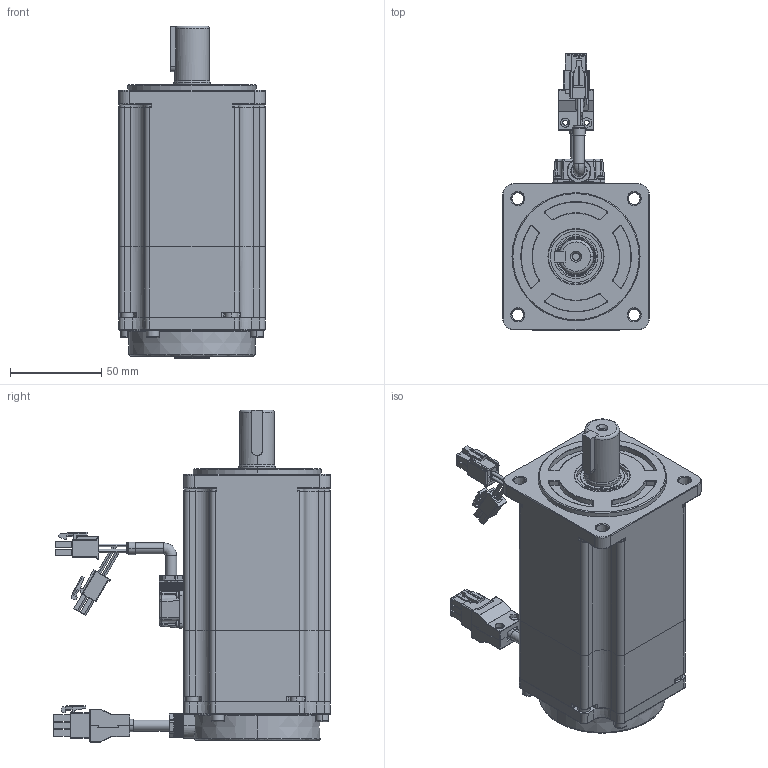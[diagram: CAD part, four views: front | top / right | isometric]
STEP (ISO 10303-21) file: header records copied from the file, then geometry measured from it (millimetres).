
FILE_DESCRIPTION (( 'STEP AP203' ), '1' );
FILE_NAME ('G3系列80ST-1000W刹车电机三维图.STEP', '2022-05-19T05:01:37', ( '微软用户' ), ( '微软中国' ), 'SwSTEP 2.0', 'SolidWorks 2016', '' );
FILE_SCHEMA (( 'CONFIG_CONTROL_DESIGN' ));
Products named in the file (1): G3系列80ST-1000W刹车电机三维图
Bounding box: 80 x 151.2 x 181.5 mm (x, y, z)
Volume: 318142.9 mm3; surface area: 159098.3 mm2
Topology: 30 solids, 30 shells, 4389 faces, 10916 edges, 6705 vertices
Faces by surface type: plane 2488, cylinder 864, cone 596, bspline 201, torus 180, sphere 60
Entity records: 135486 total; most frequent: CARTESIAN_POINT 31741, ORIENTED_EDGE 21740, DIRECTION 21578, EDGE_CURVE 10870, AXIS2_PLACEMENT_3D 7380, LINE 6818, VECTOR 6818, VERTEX_POINT 6705
